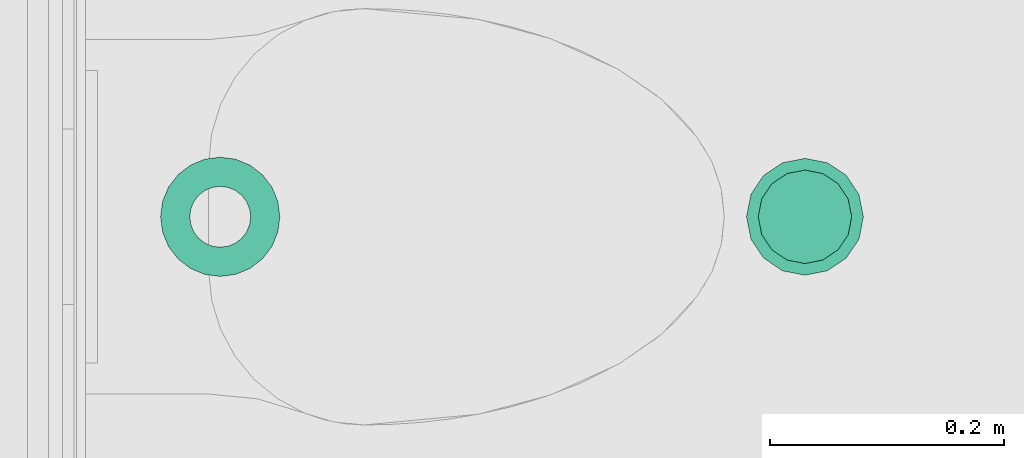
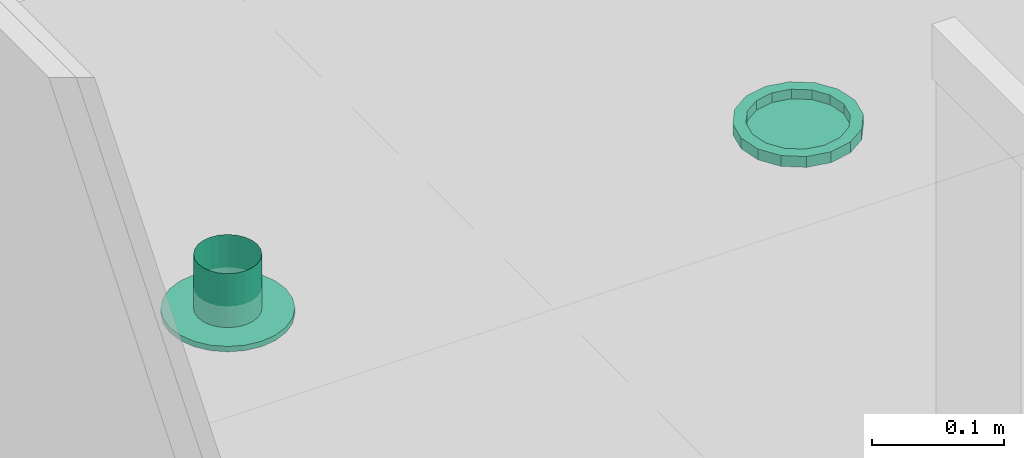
# One storey, part 263 of 347: 2 flow terminals.
"""IFC2X3 building model written with IfcOpenShell, lengths in millimetres."""

from ifc_helpers import new_model, entity, si_unit, converted_unit, derived_unit, money_unit, direction, frame, origin_with_axes, place, context, subcontext, project, spatial, open_shell, faceted_brep, surface_model, source, transform, mapped, type_object, type_shapes, element, save


model = new_model("IFC2X3")

# Units and contexts
model_context = context("Model", 3, precision=0.01, world=origin_with_axes(), true_north=direction((0.0, 1.0)))
plan_context = context("Plan", 3, precision=0.01, world=origin_with_axes(), true_north=direction((0.0, 1.0)))
body_context = subcontext(model_context, "Body", "Model", "MODEL_VIEW")
ifc_project = project(units=[si_unit("LENGTHUNIT", "METRE", prefix="MILLI"), si_unit("AREAUNIT", "SQUARE_METRE"), si_unit("VOLUMEUNIT", "CUBIC_METRE"), converted_unit("PLANEANGLEUNIT", "DEGREE", entity("IfcPlaneAngleMeasure", 0.0174532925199), si_unit("PLANEANGLEUNIT", "RADIAN"), dimensions=[0, 0, 0, 0, 0, 0, 0]), money_unit("EUR"), converted_unit("TIMEUNIT", "Year", entity("IfcTimeMeasure", 31556926.0), si_unit("TIMEUNIT", "SECOND"), dimensions=[0, 0, 1, 0, 0, 0, 0]), si_unit("MASSUNIT", "GRAM", prefix="KILO"), si_unit("THERMODYNAMICTEMPERATUREUNIT", "DEGREE_CELSIUS"), si_unit("LUMINOUSINTENSITYUNIT", "LUMEN"), si_unit("ENERGYUNIT", "JOULE", prefix="MEGA"), derived_unit("THERMALCONDUCTANCEUNIT", [(si_unit("POWERUNIT", "WATT"), 1), (si_unit("LENGTHUNIT", "METRE"), -1), (si_unit("THERMODYNAMICTEMPERATUREUNIT", "KELVIN"), -1)]), derived_unit("SPECIFICHEATCAPACITYUNIT", [(si_unit("ENERGYUNIT", "JOULE"), 1), (si_unit("MASSUNIT", "GRAM", prefix="KILO"), -1), (si_unit("THERMODYNAMICTEMPERATUREUNIT", "KELVIN"), -1)]), derived_unit("MASSDENSITYUNIT", [(si_unit("MASSUNIT", "GRAM", prefix="KILO"), 1), (si_unit("VOLUMEUNIT", "CUBIC_METRE"), -1)])], contexts=[model_context, plan_context])

# Site, building, storey
site_placement = place(None, origin_with_axes())
site = spatial("IfcSite", under=ifc_project, at=site_placement, Name="Site", CompositionType="ELEMENT")
building_placement = place(site_placement, origin_with_axes())
building = spatial("IfcBuilding", under=site, at=building_placement, Name="Naam gebouw", CompositionType="ELEMENT")
storey_placement = place(building_placement, origin_with_axes())
storey = spatial("IfcBuildingStorey", under=building, at=storey_placement, Name="begane grond", CompositionType="ELEMENT", Elevation=0.0)

# Flow terminals
lamp_type = type_object("IfcLampType", Name="Spot plafond 01 25", PredefinedType="NOTDEFINED")
shared_shape_1 = source(origin_with_axes(), body_context, "Body", "SurfaceModel", [
    faceted_brep([(50.0, 0.0, -10.0), (46.1939766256, 19.1341716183, -10.0), (46.1939766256, 19.1341716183, 0.0), (50.0, 0.0, 0.0), (46.1939766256, -19.1341716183, -10.0), (35.3553390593, -35.3553390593, -10.0), (19.1341716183, -46.1939766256, -10.0), (0.0, -50.0, -10.0), (-19.1341716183, -46.1939766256, -10.0), (-35.3553390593, -35.3553390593, -10.0), (-46.1939766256, -19.1341716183, -10.0), (-50.0, 0.0, -10.0), (-46.1939766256, 19.1341716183, -10.0), (-35.3553390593, 35.3553390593, -10.0), (-19.1341716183, 46.1939766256, -10.0), (0.0, 50.0, -10.0), (19.1341716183, 46.1939766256, -10.0), (35.3553390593, 35.3553390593, -10.0), (40.0, 0.0, -10.0), (36.9551813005, 15.3073372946, -10.0), (28.2842712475, 28.2842712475, -10.0), (15.3073372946, 36.9551813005, -10.0), (0.0, 40.0, -10.0), (-15.3073372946, 36.9551813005, -10.0), (-28.2842712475, 28.2842712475, -10.0), (-36.9551813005, 15.3073372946, -10.0), (-40.0, 0.0, -10.0), (-36.9551813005, -15.3073372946, -10.0), (-28.2842712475, -28.2842712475, -10.0), (-15.3073372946, -36.9551813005, -10.0), (0.0, -40.0, -10.0), (15.3073372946, -36.9551813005, -10.0), (28.2842712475, -28.2842712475, -10.0), (36.9551813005, -15.3073372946, -10.0), (35.3553390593, 35.3553390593, 0.0), (19.1341716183, 46.1939766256, 0.0), (0.0, 50.0, 0.0), (-19.1341716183, 46.1939766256, 0.0), (-35.3553390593, 35.3553390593, 0.0), (-46.1939766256, 19.1341716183, 0.0), (-50.0, 0.0, 0.0), (-46.1939766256, -19.1341716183, 0.0), (-35.3553390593, -35.3553390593, 0.0), (-19.1341716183, -46.1939766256, 0.0), (0.0, -50.0, 0.0), (19.1341716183, -46.1939766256, 0.0), (35.3553390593, -35.3553390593, 0.0), (46.1939766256, -19.1341716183, 0.0), (40.0, 0.0, 0.0), (36.9551813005, -15.3073372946, 0.0), (28.2842712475, -28.2842712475, 0.0), (15.3073372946, -36.9551813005, 0.0), (0.0, -40.0, 0.0), (-15.3073372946, -36.9551813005, 0.0), (-28.2842712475, -28.2842712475, 0.0), (-36.9551813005, -15.3073372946, 0.0), (-40.0, 0.0, 0.0), (-36.9551813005, 15.3073372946, 0.0), (-28.2842712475, 28.2842712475, 0.0), (-15.3073372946, 36.9551813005, 0.0), (0.0, 40.0, 0.0), (15.3073372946, 36.9551813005, 0.0), (28.2842712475, 28.2842712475, 0.0), (36.9551813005, 15.3073372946, 0.0)], [[[0, 1, 2, 3]], [[0, 4, 5, 6, 7, 8, 9, 10, 11, 12, 13, 14, 15, 16, 17, 1], [18, 19, 20, 21, 22, 23, 24, 25, 26, 27, 28, 29, 30, 31, 32, 33]], [[1, 17, 34, 2]], [[3, 2, 34, 35, 36, 37, 38, 39, 40, 41, 42, 43, 44, 45, 46, 47], [48, 49, 50, 51, 52, 53, 54, 55, 56, 57, 58, 59, 60, 61, 62, 63]], [[4, 0, 3, 47]], [[5, 4, 47, 46]], [[6, 5, 46, 45]], [[7, 6, 45, 44]], [[8, 7, 44, 43]], [[9, 8, 43, 42]], [[10, 9, 42, 41]], [[11, 10, 41, 40]], [[12, 11, 40, 39]], [[13, 12, 39, 38]], [[14, 13, 38, 37]], [[15, 14, 37, 36]], [[16, 15, 36, 35]], [[17, 16, 35, 34]], [[19, 18, 48, 63]], [[20, 19, 63, 62]], [[21, 20, 62, 61]], [[22, 21, 61, 60]], [[23, 22, 60, 59]], [[24, 23, 59, 58]], [[25, 24, 58, 57]], [[26, 25, 57, 56]], [[27, 26, 56, 55]], [[28, 27, 55, 54]], [[29, 28, 54, 53]], [[30, 29, 53, 52]], [[31, 30, 52, 51]], [[32, 31, 51, 50]], [[33, 32, 50, 49]], [[18, 33, 49, 48]]]),
    surface_model("IfcShellBasedSurfaceModel", [(40.0, 0.0, -8.9), (36.9551813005, -15.3073372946, -8.9), (28.2842712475, -28.2842712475, -8.9), (15.3073372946, -36.9551813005, -8.9), (0.0, -40.0, -8.9), (-15.3073372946, -36.9551813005, -8.9), (-28.2842712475, -28.2842712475, -8.9), (-36.9551813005, -15.3073372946, -8.9), (-40.0, 0.0, -8.9), (-36.9551813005, 15.3073372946, -8.9), (-28.2842712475, 28.2842712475, -8.9), (-15.3073372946, 36.9551813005, -8.9), (0.0, 40.0, -8.9), (15.3073372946, 36.9551813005, -8.9), (28.2842712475, 28.2842712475, -8.9), (36.9551813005, 15.3073372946, -8.9)], [open_shell([[[0, 1, 2, 3, 4, 5, 6, 7, 8, 9, 10, 11, 12, 13, 14, 15]]])]),
])
type_shapes(lamp_type, [shared_shape_1])
flow_terminal_1_placement = place(storey_placement, frame((42610.000078, 34139.9999523, 2600.0), z_axis=(0.0, 0.0, 1.0), x_axis=(1.0, 0.0, 0.0)))
element("IfcFlowTerminal", 1, at=flow_terminal_1_placement, inside=storey, type_object=lamp_type, Name="63_Lamp-x", ObjectType="Lamp", context=body_context, shape_type="MappedRepresentation", body=[
    mapped(shared_shape_1, transform((0.0, 0.0, 0.0))),
])
air_terminal_type = type_object("IfcAirTerminalType", Name="Rooster plafond rond 25", PredefinedType="GRILLE")
shared_shape_2 = source(origin_with_axes(), body_context, "Body", "SurfaceModel", [
    faceted_brep([(51.0, 0.0, -5.0), (49.2622171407, 13.1997713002, -5.0), (49.2622171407, 13.1997713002, 0.0), (51.0, 0.0, 0.0), (49.2622171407, -13.1997713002, -5.0), (44.167295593, -25.5, -5.0), (36.0624458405, -36.0624458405, -5.0), (25.5, -44.167295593, -5.0), (13.1997713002, -49.2622171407, -5.0), (0.0, -51.0, -5.0), (-13.1997713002, -49.2622171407, -5.0), (-25.5, -44.167295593, -5.0), (-36.0624458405, -36.0624458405, -5.0), (-44.167295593, -25.5, -5.0), (-49.2622171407, -13.1997713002, -5.0), (-51.0, 0.0, -5.0), (-49.2622171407, 13.1997713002, -5.0), (-44.167295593, 25.5, -5.0), (-36.0624458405, 36.0624458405, -5.0), (-25.5, 44.167295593, -5.0), (-13.1997713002, 49.2622171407, -5.0), (0.0, 51.0, -5.0), (13.1997713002, 49.2622171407, -5.0), (25.5, 44.167295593, -5.0), (36.0624458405, 36.0624458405, -5.0), (44.167295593, 25.5, -5.0), (26.0, 0.0, -5.0), (25.1140714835, 6.72929517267, -5.0), (22.5166604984, 13.0, -5.0), (18.3847763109, 18.3847763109, -5.0), (13.0, 22.5166604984, -5.0), (6.72929517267, 25.1140714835, -5.0), (0.0, 26.0, -5.0), (-6.72929517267, 25.1140714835, -5.0), (-13.0, 22.5166604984, -5.0), (-18.3847763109, 18.3847763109, -5.0), (-22.5166604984, 13.0, -5.0), (-25.1140714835, 6.72929517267, -5.0), (-26.0, 0.0, -5.0), (-25.1140714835, -6.72929517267, -5.0), (-22.5166604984, -13.0, -5.0), (-18.3847763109, -18.3847763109, -5.0), (-13.0, -22.5166604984, -5.0), (-6.72929517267, -25.1140714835, -5.0), (0.0, -26.0, -5.0), (6.72929517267, -25.1140714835, -5.0), (13.0, -22.5166604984, -5.0), (18.3847763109, -18.3847763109, -5.0), (22.5166604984, -13.0, -5.0), (25.1140714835, -6.72929517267, -5.0), (44.167295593, 25.5, 0.0), (36.0624458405, 36.0624458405, 0.0), (25.5, 44.167295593, 0.0), (13.1997713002, 49.2622171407, 0.0), (0.0, 51.0, 0.0), (-13.1997713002, 49.2622171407, 0.0), (-25.5, 44.167295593, 0.0), (-36.0624458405, 36.0624458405, 0.0), (-44.167295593, 25.5, 0.0), (-49.2622171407, 13.1997713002, 0.0), (-51.0, 0.0, 0.0), (-49.2622171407, -13.1997713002, 0.0), (-44.167295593, -25.5, 0.0), (-36.0624458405, -36.0624458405, 0.0), (-25.5, -44.167295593, 0.0), (-13.1997713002, -49.2622171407, 0.0), (0.0, -51.0, 0.0), (13.1997713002, -49.2622171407, 0.0), (25.5, -44.167295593, 0.0), (36.0624458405, -36.0624458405, 0.0), (44.167295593, -25.5, 0.0), (49.2622171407, -13.1997713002, 0.0), (26.0, 0.0, 0.0), (25.1140714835, -6.72929517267, 0.0), (22.5166604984, -13.0, 0.0), (18.3847763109, -18.3847763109, 0.0), (13.0, -22.5166604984, 0.0), (6.72929517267, -25.1140714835, 0.0), (0.0, -26.0, 0.0), (-6.72929517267, -25.1140714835, 0.0), (-13.0, -22.5166604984, 0.0), (-18.3847763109, -18.3847763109, 0.0), (-22.5166604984, -13.0, 0.0), (-25.1140714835, -6.72929517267, 0.0), (-26.0, 0.0, 0.0), (-25.1140714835, 6.72929517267, 0.0), (-22.5166604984, 13.0, 0.0), (-18.3847763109, 18.3847763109, 0.0), (-13.0, 22.5166604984, 0.0), (-6.72929517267, 25.1140714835, 0.0), (0.0, 26.0, 0.0), (6.72929517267, 25.1140714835, 0.0), (13.0, 22.5166604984, 0.0), (18.3847763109, 18.3847763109, 0.0), (22.5166604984, 13.0, 0.0), (25.1140714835, 6.72929517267, 0.0)], [[[0, 1, 2, 3]], [[0, 4, 5, 6, 7, 8, 9, 10, 11, 12, 13, 14, 15, 16, 17, 18, 19, 20, 21, 22, 23, 24, 25, 1], [26, 27, 28, 29, 30, 31, 32, 33, 34, 35, 36, 37, 38, 39, 40, 41, 42, 43, 44, 45, 46, 47, 48, 49]], [[1, 25, 50, 2]], [[3, 2, 50, 51, 52, 53, 54, 55, 56, 57, 58, 59, 60, 61, 62, 63, 64, 65, 66, 67, 68, 69, 70, 71], [72, 73, 74, 75, 76, 77, 78, 79, 80, 81, 82, 83, 84, 85, 86, 87, 88, 89, 90, 91, 92, 93, 94, 95]], [[4, 0, 3, 71]], [[5, 4, 71, 70]], [[6, 5, 70, 69]], [[7, 6, 69, 68]], [[8, 7, 68, 67]], [[9, 8, 67, 66]], [[10, 9, 66, 65]], [[11, 10, 65, 64]], [[12, 11, 64, 63]], [[13, 12, 63, 62]], [[14, 13, 62, 61]], [[15, 14, 61, 60]], [[16, 15, 60, 59]], [[17, 16, 59, 58]], [[18, 17, 58, 57]], [[19, 18, 57, 56]], [[20, 19, 56, 55]], [[21, 20, 55, 54]], [[22, 21, 54, 53]], [[23, 22, 53, 52]], [[24, 23, 52, 51]], [[25, 24, 51, 50]], [[27, 26, 72, 95]], [[28, 27, 95, 94]], [[29, 28, 94, 93]], [[30, 29, 93, 92]], [[31, 30, 92, 91]], [[32, 31, 91, 90]], [[33, 32, 90, 89]], [[34, 33, 89, 88]], [[35, 34, 88, 87]], [[36, 35, 87, 86]], [[37, 36, 86, 85]], [[38, 37, 85, 84]], [[39, 38, 84, 83]], [[40, 39, 83, 82]], [[41, 40, 82, 81]], [[42, 41, 81, 80]], [[43, 42, 80, 79]], [[44, 43, 79, 78]], [[45, 44, 78, 77]], [[46, 45, 77, 76]], [[47, 46, 76, 75]], [[48, 47, 75, 74]], [[49, 48, 74, 73]], [[26, 49, 73, 72]]]),
    surface_model("IfcShellBasedSurfaceModel", [(0.0, -26.0, 0.0), (6.72929517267, -25.1140714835, 0.0), (6.72929517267, -25.1140714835, 50.0), (0.0, -26.0, 50.0), (13.0, -22.5166604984, 0.0), (13.0, -22.5166604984, 50.0), (-6.72929517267, -25.1140714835, 0.0), (-6.72929517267, -25.1140714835, 50.0), (18.3847763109, -18.3847763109, 0.0), (18.3847763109, -18.3847763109, 50.0), (-13.0, -22.5166604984, 0.0), (-13.0, -22.5166604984, 50.0), (22.5166604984, -13.0, 0.0), (22.5166604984, -13.0, 50.0), (-18.3847763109, -18.3847763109, 0.0), (-18.3847763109, -18.3847763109, 50.0), (25.1140714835, -6.72929517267, 0.0), (25.1140714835, -6.72929517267, 50.0), (-22.5166604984, -13.0, 0.0), (-22.5166604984, -13.0, 50.0), (26.0, 0.0, 0.0), (26.0, 0.0, 50.0), (-25.1140714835, -6.72929517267, 0.0), (-25.1140714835, -6.72929517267, 50.0), (25.1140714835, 6.72929517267, 0.0), (25.1140714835, 6.72929517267, 50.0), (-26.0, 0.0, 0.0), (-26.0, 0.0, 50.0), (22.5166604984, 13.0, 0.0), (22.5166604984, 13.0, 50.0), (-25.1140714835, 6.72929517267, 0.0), (-25.1140714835, 6.72929517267, 50.0), (18.3847763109, 18.3847763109, 0.0), (18.3847763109, 18.3847763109, 50.0), (-22.5166604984, 13.0, 0.0), (-22.5166604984, 13.0, 50.0), (13.0, 22.5166604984, 0.0), (13.0, 22.5166604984, 50.0), (-18.3847763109, 18.3847763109, 0.0), (-18.3847763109, 18.3847763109, 50.0), (6.72929517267, 25.1140714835, 0.0), (6.72929517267, 25.1140714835, 50.0), (-13.0, 22.5166604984, 0.0), (-13.0, 22.5166604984, 50.0), (0.0, 26.0, 0.0), (0.0, 26.0, 50.0), (-6.72929517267, 25.1140714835, 0.0), (-6.72929517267, 25.1140714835, 50.0)], [open_shell([[[0, 1, 2, 3]], [[1, 4, 5, 2]], [[6, 0, 3, 7]], [[4, 8, 9, 5]], [[10, 6, 7, 11]], [[8, 12, 13, 9]], [[14, 10, 11, 15]], [[12, 16, 17, 13]], [[18, 14, 15, 19]], [[16, 20, 21, 17]], [[22, 18, 19, 23]], [[20, 24, 25, 21]], [[26, 22, 23, 27]], [[24, 28, 29, 25]], [[30, 26, 27, 31]], [[28, 32, 33, 29]], [[34, 30, 31, 35]], [[32, 36, 37, 33]], [[38, 34, 35, 39]], [[36, 40, 41, 37]], [[42, 38, 39, 43]], [[40, 44, 45, 41]], [[46, 42, 43, 47]], [[44, 46, 47, 45]]])]),
])
type_shapes(air_terminal_type, [shared_shape_2])
flow_terminal_2_placement = place(storey_placement, frame((42110.000078, 34139.9999523, 2600.0), z_axis=(0.0, 0.0, 1.0), x_axis=(1.0, 0.0, 0.0)))
element("IfcFlowTerminal", 2, at=flow_terminal_2_placement, inside=storey, type_object=air_terminal_type, Name="57_78 garderobe", context=body_context, shape_type="MappedRepresentation", body=[
    mapped(shared_shape_2, transform((0.0, 0.0, 0.0))),
])

save(model, "model.ifc")
